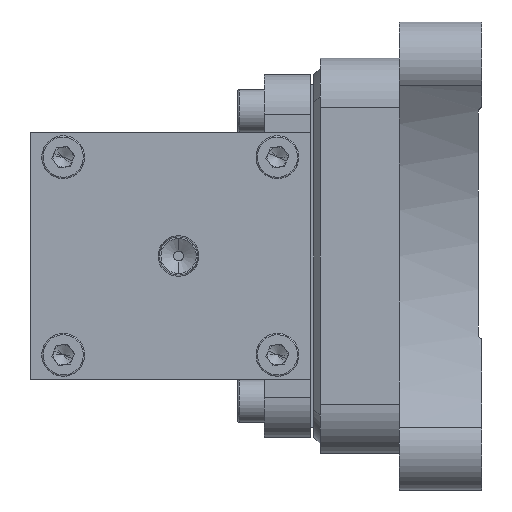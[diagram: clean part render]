
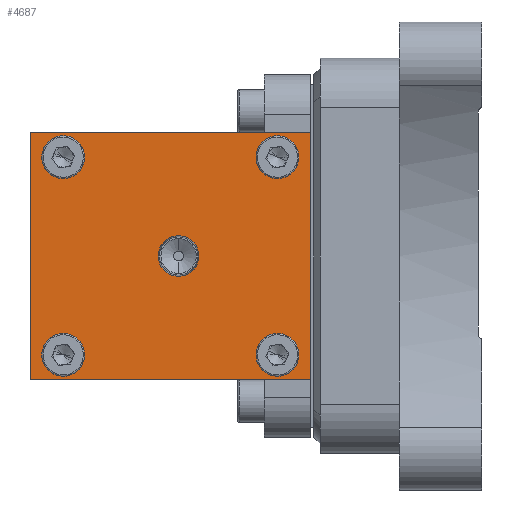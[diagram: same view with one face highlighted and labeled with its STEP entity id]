
A CAD part, left-side view. The second image highlights one B-rep face of the part: STEP entity #4687.
In plain terms, the highlighted planar face has unit normal (-1, 0, 0) as drawn and (1, 0, 0) by its records, which use the part's own axes.
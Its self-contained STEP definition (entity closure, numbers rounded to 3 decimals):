
#195 = AXIS2_PLACEMENT_3D ( 'NONE', #949, #9120, #8987 ) ;
#241 = DIRECTION ( 'NONE',  ( 0., 0., -1. ) ) ;
#255 = VERTEX_POINT ( 'NONE', #8379 ) ;
#270 = FACE_BOUND ( 'NONE', #1716, .T. ) ;
#279 = EDGE_CURVE ( 'NONE', #2278, #255, #6530, .T. ) ;
#364 = CARTESIAN_POINT ( 'NONE',  ( 93., 76., 26. ) ) ;
#484 = EDGE_LOOP ( 'NONE', ( #9195, #4499 ) ) ;
#513 = ORIENTED_EDGE ( 'NONE', *, *, #9104, .F. ) ;
#555 = DIRECTION ( 'NONE',  ( 0., 0., -1. ) ) ;
#599 = PLANE ( 'NONE',  #1658 ) ;
#646 = VECTOR ( 'NONE', #2882, 1000. ) ;
#647 = CARTESIAN_POINT ( 'NONE',  ( 93., 76., 34. ) ) ;
#673 = CIRCLE ( 'NONE', #195, 6.154 ) ;
#768 = CARTESIAN_POINT ( 'NONE',  ( 93., 76., -34. ) ) ;
#771 = EDGE_CURVE ( 'NONE', #3533, #956, #1768, .T. ) ;
#830 = ORIENTED_EDGE ( 'NONE', *, *, #8721, .F. ) ;
#910 = CARTESIAN_POINT ( 'NONE',  ( 93., 86., 37.5 ) ) ;
#949 = CARTESIAN_POINT ( 'NONE',  ( 93., 41., 0. ) ) ;
#956 = VERTEX_POINT ( 'NONE', #4658 ) ;
#1010 = VERTEX_POINT ( 'NONE', #9099 ) ;
#1034 = CARTESIAN_POINT ( 'NONE',  ( 93., 1., 37.5 ) ) ;
#1056 = AXIS2_PLACEMENT_3D ( 'NONE', #8583, #3394, #5710 ) ;
#1092 = CARTESIAN_POINT ( 'NONE',  ( 93., 86., 37.5 ) ) ;
#1102 = DIRECTION ( 'NONE',  ( 0., 1., 0. ) ) ;
#1196 = EDGE_CURVE ( 'NONE', #2729, #1795, #6068, .T. ) ;
#1205 = ORIENTED_EDGE ( 'NONE', *, *, #7057, .T. ) ;
#1265 = CARTESIAN_POINT ( 'NONE',  ( 93., 11., 30. ) ) ;
#1427 = EDGE_LOOP ( 'NONE', ( #5669, #1485 ) ) ;
#1485 = ORIENTED_EDGE ( 'NONE', *, *, #2998, .F. ) ;
#1488 = ORIENTED_EDGE ( 'NONE', *, *, #8130, .T. ) ;
#1611 = ORIENTED_EDGE ( 'NONE', *, *, #279, .F. ) ;
#1658 = AXIS2_PLACEMENT_3D ( 'NONE', #7351, #8152, #2187 ) ;
#1679 = VERTEX_POINT ( 'NONE', #8393 ) ;
#1716 = EDGE_LOOP ( 'NONE', ( #513, #5097 ) ) ;
#1744 = CIRCLE ( 'NONE', #4070, 4. ) ;
#1768 = CIRCLE ( 'NONE', #5303, 4. ) ;
#1771 = CARTESIAN_POINT ( 'NONE',  ( 93., 76., 30. ) ) ;
#1775 = FACE_BOUND ( 'NONE', #9129, .T. ) ;
#1776 = DIRECTION ( 'NONE',  ( 0., 1., 0. ) ) ;
#1795 = VERTEX_POINT ( 'NONE', #364 ) ;
#2187 = DIRECTION ( 'NONE',  ( 0., 0., 1. ) ) ;
#2278 = VERTEX_POINT ( 'NONE', #910 ) ;
#2349 = FACE_BOUND ( 'NONE', #1427, .T. ) ;
#2503 = EDGE_LOOP ( 'NONE', ( #1488, #1611, #5076, #1205 ) ) ;
#2536 = VERTEX_POINT ( 'NONE', #8485 ) ;
#2729 = VERTEX_POINT ( 'NONE', #647 ) ;
#2882 = DIRECTION ( 'NONE',  ( 0., 0., -1. ) ) ;
#2961 = LINE ( 'NONE', #6586, #646 ) ;
#2998 = EDGE_CURVE ( 'NONE', #1679, #4773, #1744, .T. ) ;
#3006 = VERTEX_POINT ( 'NONE', #1034 ) ;
#3055 = AXIS2_PLACEMENT_3D ( 'NONE', #5711, #7198, #4963 ) ;
#3394 = DIRECTION ( 'NONE',  ( 1., 0., 0. ) ) ;
#3447 = DIRECTION ( 'NONE',  ( 1., 0., 0. ) ) ;
#3520 = CARTESIAN_POINT ( 'NONE',  ( 93., 41., -6.154 ) ) ;
#3533 = VERTEX_POINT ( 'NONE', #8756 ) ;
#3539 = DIRECTION ( 'NONE',  ( 1., 0., 0. ) ) ;
#3785 = DIRECTION ( 'NONE',  ( 0., 0., -1. ) ) ;
#3858 = DIRECTION ( 'NONE',  ( 0., 0., -1. ) ) ;
#3975 = VERTEX_POINT ( 'NONE', #9546 ) ;
#4070 = AXIS2_PLACEMENT_3D ( 'NONE', #6869, #5488, #3858 ) ;
#4121 = VERTEX_POINT ( 'NONE', #3520 ) ;
#4150 = CIRCLE ( 'NONE', #4978, 4. ) ;
#4426 = EDGE_CURVE ( 'NONE', #1795, #2729, #9141, .T. ) ;
#4499 = ORIENTED_EDGE ( 'NONE', *, *, #1196, .F. ) ;
#4585 = FACE_BOUND ( 'NONE', #6450, .T. ) ;
#4658 = CARTESIAN_POINT ( 'NONE',  ( 93., 11., 26. ) ) ;
#4687 = ADVANCED_FACE ( 'NONE', ( #8504, #7110, #2349, #4585, #1775, #270 ), #599, .F. ) ;
#4709 = DIRECTION ( 'NONE',  ( 1., 0., 0. ) ) ;
#4749 = AXIS2_PLACEMENT_3D ( 'NONE', #6090, #4709, #241 ) ;
#4771 = DIRECTION ( 'NONE',  ( 0., 0., -1. ) ) ;
#4773 = VERTEX_POINT ( 'NONE', #768 ) ;
#4798 = VERTEX_POINT ( 'NONE', #8273 ) ;
#4848 = EDGE_CURVE ( 'NONE', #3975, #1010, #8730, .T. ) ;
#4881 = DIRECTION ( 'NONE',  ( 0., 0., -1. ) ) ;
#4936 = VECTOR ( 'NONE', #1102, 1000. ) ;
#4963 = DIRECTION ( 'NONE',  ( 0., 0., -1. ) ) ;
#4978 = AXIS2_PLACEMENT_3D ( 'NONE', #6786, #5995, #7511 ) ;
#5042 = LINE ( 'NONE', #1092, #5858 ) ;
#5076 = ORIENTED_EDGE ( 'NONE', *, *, #8598, .F. ) ;
#5097 = ORIENTED_EDGE ( 'NONE', *, *, #9216, .F. ) ;
#5153 = AXIS2_PLACEMENT_3D ( 'NONE', #8214, #5388, #3785 ) ;
#5300 = DIRECTION ( 'NONE',  ( 0., 0., -1. ) ) ;
#5303 = AXIS2_PLACEMENT_3D ( 'NONE', #1265, #3539, #555 ) ;
#5388 = DIRECTION ( 'NONE',  ( 1., 0., 0. ) ) ;
#5488 = DIRECTION ( 'NONE',  ( 1., 0., 0. ) ) ;
#5563 = CARTESIAN_POINT ( 'NONE',  ( 93., 86., -37.5 ) ) ;
#5567 = CARTESIAN_POINT ( 'NONE',  ( 93., 76., -30. ) ) ;
#5669 = ORIENTED_EDGE ( 'NONE', *, *, #6931, .F. ) ;
#5710 = DIRECTION ( 'NONE',  ( 0., 0., -1. ) ) ;
#5711 = CARTESIAN_POINT ( 'NONE',  ( 93., 76., 30. ) ) ;
#5858 = VECTOR ( 'NONE', #1776, 1000. ) ;
#5995 = DIRECTION ( 'NONE',  ( 1., 0., 0. ) ) ;
#6068 = CIRCLE ( 'NONE', #3055, 4. ) ;
#6090 = CARTESIAN_POINT ( 'NONE',  ( 93., 41., 0. ) ) ;
#6347 = CIRCLE ( 'NONE', #6961, 4. ) ;
#6450 = EDGE_LOOP ( 'NONE', ( #830, #6743 ) ) ;
#6530 = LINE ( 'NONE', #7501, #8956 ) ;
#6586 = CARTESIAN_POINT ( 'NONE',  ( 93., 1., 37.5 ) ) ;
#6642 = EDGE_CURVE ( 'NONE', #1010, #3975, #4150, .T. ) ;
#6727 = ORIENTED_EDGE ( 'NONE', *, *, #6642, .F. ) ;
#6743 = ORIENTED_EDGE ( 'NONE', *, *, #771, .F. ) ;
#6786 = CARTESIAN_POINT ( 'NONE',  ( 93., 11., -30. ) ) ;
#6869 = CARTESIAN_POINT ( 'NONE',  ( 93., 76., -30. ) ) ;
#6905 = LINE ( 'NONE', #5563, #4936 ) ;
#6931 = EDGE_CURVE ( 'NONE', #4773, #1679, #6347, .T. ) ;
#6961 = AXIS2_PLACEMENT_3D ( 'NONE', #5567, #3447, #4881 ) ;
#7057 = EDGE_CURVE ( 'NONE', #3006, #4798, #2961, .T. ) ;
#7110 = FACE_BOUND ( 'NONE', #484, .T. ) ;
#7198 = DIRECTION ( 'NONE',  ( 1., 0., 0. ) ) ;
#7351 = CARTESIAN_POINT ( 'NONE',  ( 93., 86., 37.5 ) ) ;
#7501 = CARTESIAN_POINT ( 'NONE',  ( 93., 86., 37.5 ) ) ;
#7511 = DIRECTION ( 'NONE',  ( 0., 0., -1. ) ) ;
#7591 = CIRCLE ( 'NONE', #1056, 4. ) ;
#8128 = CIRCLE ( 'NONE', #4749, 6.154 ) ;
#8130 = EDGE_CURVE ( 'NONE', #4798, #255, #6905, .T. ) ;
#8152 = DIRECTION ( 'NONE',  ( -1., 0., 0. ) ) ;
#8214 = CARTESIAN_POINT ( 'NONE',  ( 93., 11., -30. ) ) ;
#8273 = CARTESIAN_POINT ( 'NONE',  ( 93., 1., -37.5 ) ) ;
#8379 = CARTESIAN_POINT ( 'NONE',  ( 93., 86., -37.5 ) ) ;
#8393 = CARTESIAN_POINT ( 'NONE',  ( 93., 76., -26. ) ) ;
#8485 = CARTESIAN_POINT ( 'NONE',  ( 93., 41., 6.154 ) ) ;
#8504 = FACE_OUTER_BOUND ( 'NONE', #2503, .T. ) ;
#8583 = CARTESIAN_POINT ( 'NONE',  ( 93., 11., 30. ) ) ;
#8598 = EDGE_CURVE ( 'NONE', #3006, #2278, #5042, .T. ) ;
#8721 = EDGE_CURVE ( 'NONE', #956, #3533, #7591, .T. ) ;
#8730 = CIRCLE ( 'NONE', #5153, 4. ) ;
#8756 = CARTESIAN_POINT ( 'NONE',  ( 93., 11., 34. ) ) ;
#8853 = AXIS2_PLACEMENT_3D ( 'NONE', #1771, #9127, #4771 ) ;
#8956 = VECTOR ( 'NONE', #5300, 1000. ) ;
#8977 = ORIENTED_EDGE ( 'NONE', *, *, #4848, .F. ) ;
#8987 = DIRECTION ( 'NONE',  ( 0., 0., -1. ) ) ;
#9099 = CARTESIAN_POINT ( 'NONE',  ( 93., 11., -34. ) ) ;
#9104 = EDGE_CURVE ( 'NONE', #4121, #2536, #673, .T. ) ;
#9120 = DIRECTION ( 'NONE',  ( 1., 0., 0. ) ) ;
#9127 = DIRECTION ( 'NONE',  ( 1., 0., 0. ) ) ;
#9129 = EDGE_LOOP ( 'NONE', ( #6727, #8977 ) ) ;
#9141 = CIRCLE ( 'NONE', #8853, 4. ) ;
#9195 = ORIENTED_EDGE ( 'NONE', *, *, #4426, .F. ) ;
#9216 = EDGE_CURVE ( 'NONE', #2536, #4121, #8128, .T. ) ;
#9546 = CARTESIAN_POINT ( 'NONE',  ( 93., 11., -26. ) ) ;
